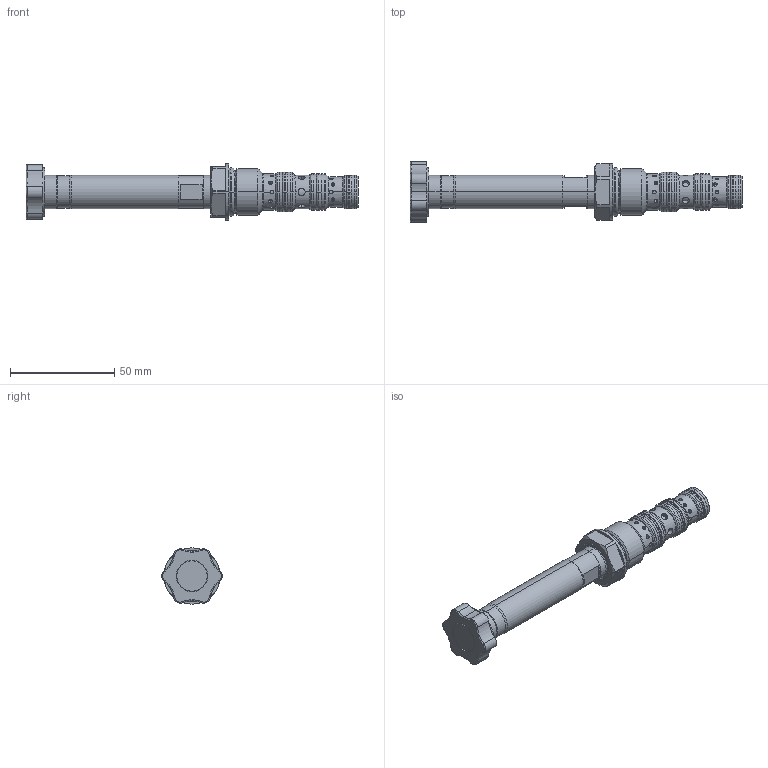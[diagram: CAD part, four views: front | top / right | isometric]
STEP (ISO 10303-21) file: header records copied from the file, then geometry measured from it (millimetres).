
FILE_DESCRIPTION (( 'STEP AP214' ), '1' );
FILE_NAME ('WDPPU10-X5.STEP', '2017-03-07T14:28:56', ( '' ), ( '' ), 'SwSTEP 2.0', 'SolidWorks 2016', '' );
FILE_SCHEMA (( 'AUTOMOTIVE_DESIGN' ));
Length unit declared in the file: millimetre
Products named in the file (1): WDPPU10-X5
Bounding box: 159.2 x 28.98 x 27 mm (x, y, z)
Volume: 40414.5 mm3; surface area: 13803.7 mm2
Topology: 2 solids, 6 shells, 391 faces, 858 edges, 529 vertices
Faces by surface type: cylinder 195, torus 59, plane 54, cone 43, bspline 40
Entity records: 17150 total; most frequent: CARTESIAN_POINT 4775, DIRECTION 1834, ORIENTED_EDGE 1716, EDGE_CURVE 858, AXIS2_PLACEMENT_3D 800, VERTEX_POINT 529, EDGE_LOOP 451, CIRCLE 448
